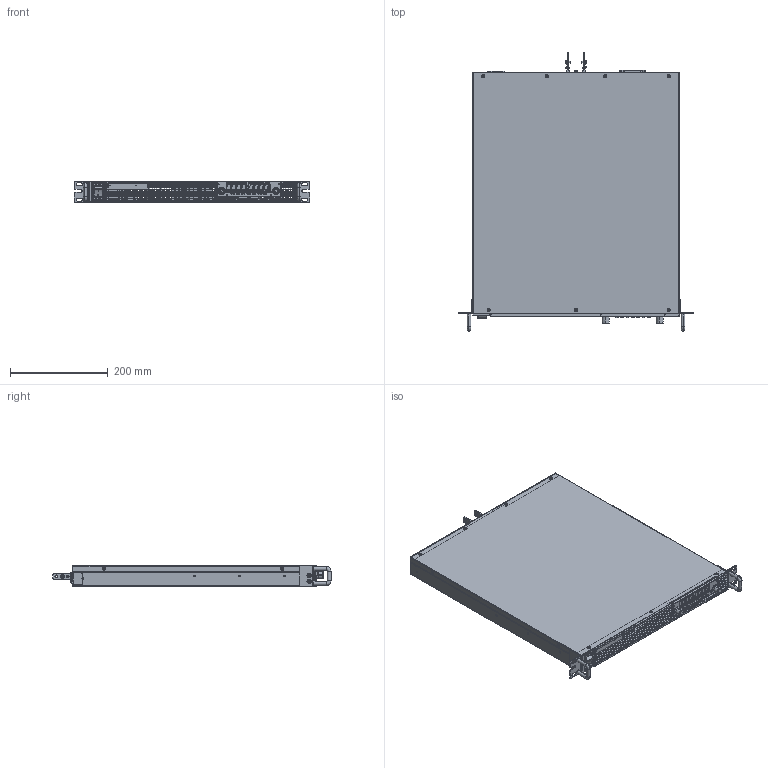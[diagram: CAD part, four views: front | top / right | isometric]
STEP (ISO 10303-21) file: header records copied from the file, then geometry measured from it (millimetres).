
FILE_DESCRIPTION((''),'2;1');
FILE_NAME('CU_RMX-4122_4123','2017-10-27T',('gvillanu'),(''),'CREO PARAMETRIC BY PTC INC, 2015380','CREO PARAMETRIC BY PTC INC, 2015380','');
FILE_SCHEMA(('CONFIG_CONTROL_DESIGN'));
Products named in the file (1): CU_RMX-4122_4123
Bounding box: 482.8 x 570 x 44 mm (x, y, z)
Volume: 15746.1 mm3; surface area: 1065795 mm2
Topology: 40 solids, 43 shells, 7888 faces, 22436 edges, 14485 vertices
Faces by surface type: plane 4863, cylinder 2135, extrusion 420, cone 291, bspline 84, torus 48, sphere 47
Entity records: 268221 total; most frequent: CARTESIAN_POINT 61106, ORIENTED_EDGE 44694, DIRECTION 40861, EDGE_CURVE 22347, VECTOR 16659, LINE 16239, VERTEX_POINT 14485, AXIS2_PLACEMENT_3D 12101
